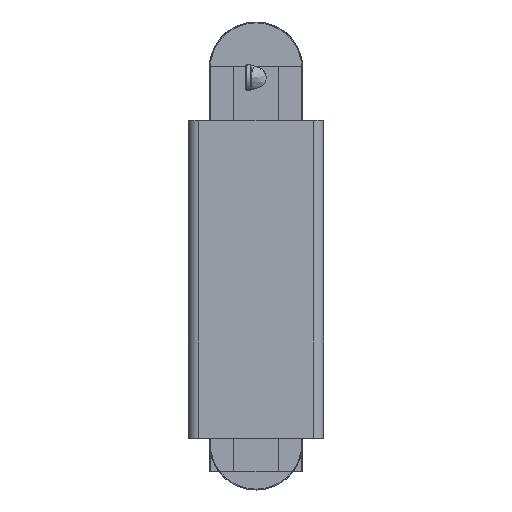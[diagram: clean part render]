
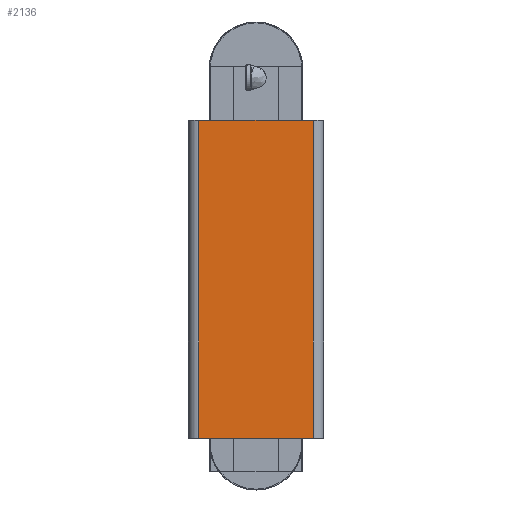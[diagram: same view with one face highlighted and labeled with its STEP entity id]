
A CAD part, front view. The second image highlights one B-rep face of the part: STEP entity #2136.
In plain terms, the highlighted planar face has unit normal (0, -1, 0).
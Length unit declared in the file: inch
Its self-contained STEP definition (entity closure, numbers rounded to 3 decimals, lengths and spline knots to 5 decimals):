
#62 = DIRECTION ( 'NONE',  ( 0., 0., -1. ) ) ;
#319 = VECTOR ( 'NONE', #3355, 39.37008 ) ;
#338 = VERTEX_POINT ( 'NONE', #6025 ) ;
#416 = ORIENTED_EDGE ( 'NONE', *, *, #2220, .T. ) ;
#816 = LINE ( 'NONE', #3798, #319 ) ;
#1045 = LINE ( 'NONE', #2904, #2036 ) ;
#1116 = DIRECTION ( 'NONE',  ( 0., 0., -1. ) ) ;
#1224 = EDGE_CURVE ( 'NONE', #338, #2684, #816, .T. ) ;
#1543 = AXIS2_PLACEMENT_3D ( 'NONE', #1673, #4288, #1116 ) ;
#1673 = CARTESIAN_POINT ( 'NONE',  ( 1.62916, 0.78232, 5.58198 ) ) ;
#1774 = EDGE_CURVE ( 'NONE', #4060, #338, #4998, .T. ) ;
#2009 = VERTEX_POINT ( 'NONE', #5335 ) ;
#2036 = VECTOR ( 'NONE', #6546, 39.37008 ) ;
#2136 = ADVANCED_FACE ( 'NONE', ( #2961 ), #2175, .F. ) ;
#2139 = CARTESIAN_POINT ( 'NONE',  ( -2.19084, 0.78232, 5.58198 ) ) ;
#2175 = PLANE ( 'NONE',  #1543 ) ;
#2197 = CARTESIAN_POINT ( 'NONE',  ( 1.62916, 0.78232, -5.02802 ) ) ;
#2220 = EDGE_CURVE ( 'NONE', #2009, #2684, #1045, .T. ) ;
#2408 = ORIENTED_EDGE ( 'NONE', *, *, #1224, .F. ) ;
#2684 = VERTEX_POINT ( 'NONE', #2197 ) ;
#2715 = ORIENTED_EDGE ( 'NONE', *, *, #1774, .F. ) ;
#2904 = CARTESIAN_POINT ( 'NONE',  ( 1.62916, 0.78232, -5.02802 ) ) ;
#2961 = FACE_OUTER_BOUND ( 'NONE', #6641, .T. ) ;
#3355 = DIRECTION ( 'NONE',  ( 0., 0., -1. ) ) ;
#3798 = CARTESIAN_POINT ( 'NONE',  ( 1.62916, 0.78232, 5.58198 ) ) ;
#4060 = VERTEX_POINT ( 'NONE', #2139 ) ;
#4288 = DIRECTION ( 'NONE',  ( 0., 1., 0. ) ) ;
#4327 = ORIENTED_EDGE ( 'NONE', *, *, #6057, .T. ) ;
#4572 = VECTOR ( 'NONE', #62, 39.37008 ) ;
#4742 = LINE ( 'NONE', #5872, #4572 ) ;
#4998 = LINE ( 'NONE', #6130, #5414 ) ;
#5335 = CARTESIAN_POINT ( 'NONE',  ( -2.19084, 0.78232, -5.02802 ) ) ;
#5414 = VECTOR ( 'NONE', #5619, 39.37008 ) ;
#5619 = DIRECTION ( 'NONE',  ( 1., 0., 0. ) ) ;
#5872 = CARTESIAN_POINT ( 'NONE',  ( -2.19084, 0.78232, 5.58198 ) ) ;
#6025 = CARTESIAN_POINT ( 'NONE',  ( 1.62916, 0.78232, 5.58198 ) ) ;
#6057 = EDGE_CURVE ( 'NONE', #4060, #2009, #4742, .T. ) ;
#6130 = CARTESIAN_POINT ( 'NONE',  ( 1.62916, 0.78232, 5.58198 ) ) ;
#6546 = DIRECTION ( 'NONE',  ( 1., 0., 0. ) ) ;
#6641 = EDGE_LOOP ( 'NONE', ( #416, #2408, #2715, #4327 ) ) ;
